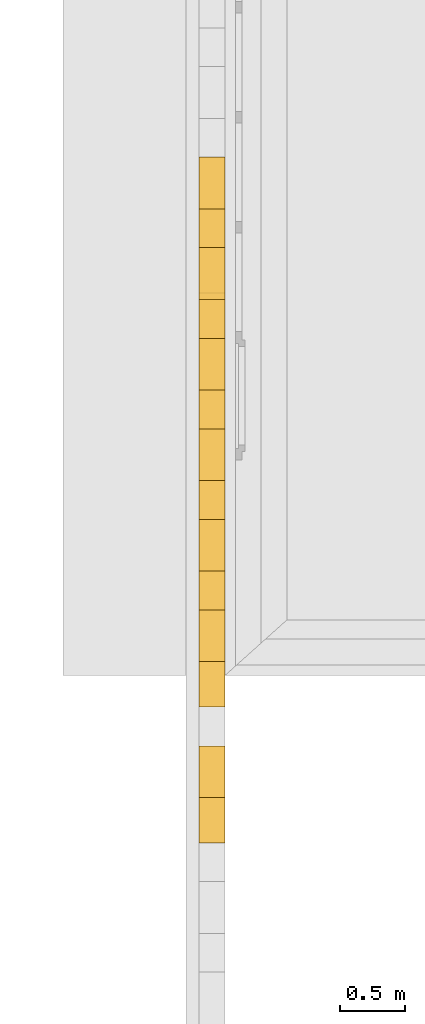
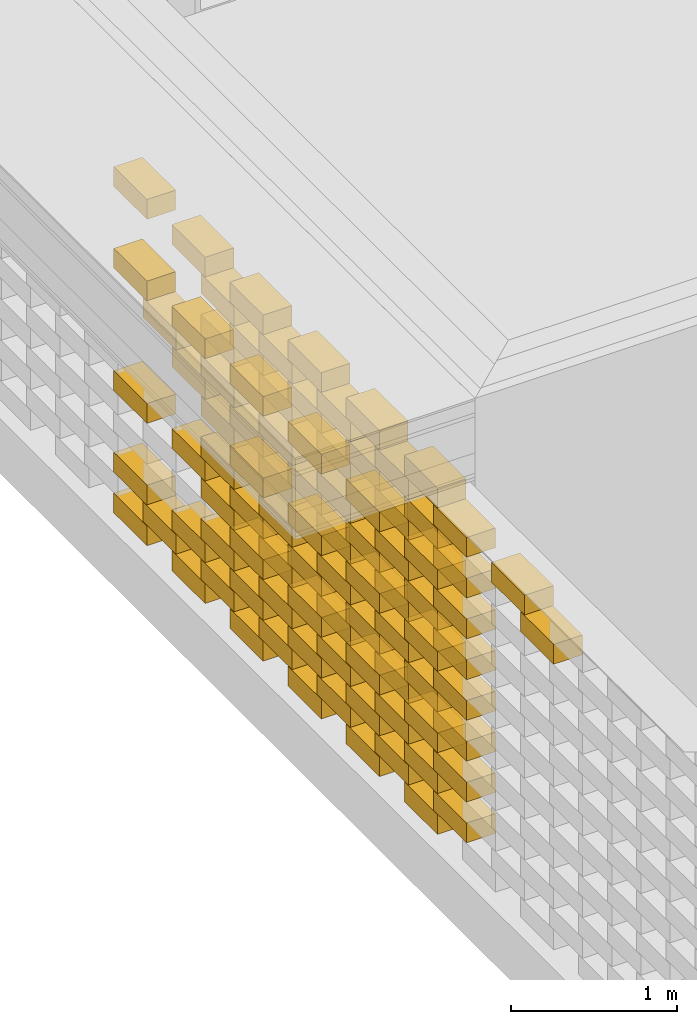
# One storey, part 47 of 62: 105 railings.
"""IFC2X3 building model written with IfcOpenShell, lengths in millimetres."""

from ifc_helpers import new_model, entity, si_unit, converted_unit, derived_unit, money_unit, direction, frame, origin_with_axes, place, context, subcontext, project, spatial, polyline, outline, extrude, material, type_object, element, save


model = new_model("IFC2X3")

# Units and contexts
model_context = context("Model", 3, precision=0.01, world=origin_with_axes(), true_north=direction((0.0, 1.0)))
body_context = subcontext(model_context, "Body", "Model", "MODEL_VIEW")
ifc_project = project(units=[si_unit("LENGTHUNIT", "METRE", prefix="MILLI"), si_unit("AREAUNIT", "SQUARE_METRE"), si_unit("VOLUMEUNIT", "CUBIC_METRE"), converted_unit("PLANEANGLEUNIT", "DEGREE", entity("IfcPlaneAngleMeasure", 0.0174532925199), si_unit("PLANEANGLEUNIT", "RADIAN"), dimensions=[0, 0, 0, 0, 0, 0, 0]), si_unit("SOLIDANGLEUNIT", "STERADIAN"), money_unit("EUR"), converted_unit("TIMEUNIT", "Year", entity("IfcTimeMeasure", 31556926.0), si_unit("TIMEUNIT", "SECOND"), dimensions=[0, 0, 1, 0, 0, 0, 0]), si_unit("MASSUNIT", "GRAM", prefix="KILO"), si_unit("THERMODYNAMICTEMPERATUREUNIT", "DEGREE_CELSIUS"), si_unit("LUMINOUSINTENSITYUNIT", "LUMEN"), si_unit("ENERGYUNIT", "JOULE", prefix="MEGA"), derived_unit("THERMALCONDUCTANCEUNIT", [(si_unit("POWERUNIT", "WATT"), 1), (si_unit("LENGTHUNIT", "METRE"), -1), (si_unit("THERMODYNAMICTEMPERATUREUNIT", "KELVIN"), -1)]), derived_unit("SPECIFICHEATCAPACITYUNIT", [(si_unit("ENERGYUNIT", "JOULE"), 1), (si_unit("MASSUNIT", "GRAM", prefix="KILO"), -1), (si_unit("THERMODYNAMICTEMPERATUREUNIT", "KELVIN"), -1)]), derived_unit("MASSDENSITYUNIT", [(si_unit("MASSUNIT", "GRAM", prefix="KILO"), 1), (si_unit("VOLUMEUNIT", "CUBIC_METRE"), -1)])], contexts=[model_context])

# Site, building, storey
site_placement = place(None, origin_with_axes())
site = spatial("IfcSite", under=ifc_project, at=site_placement, Name="KIRDE 14, ELVA", CompositionType="ELEMENT")
building_placement = place(site_placement, origin_with_axes())
building = spatial("IfcBuilding", under=site, at=building_placement, Name="PPA ja Päästeameti ühishoone", CompositionType="ELEMENT")
storey_placement = place(building_placement, origin_with_axes())
storey = spatial("IfcBuildingStorey", under=building, at=storey_placement, Name="Esimene korrus", CompositionType="ELEMENT", Elevation=0.0)

# Railings
ifc_material = material(Name="Air Space")
railing_type = type_object("IfcRailingType", Name="Air Space 200", PredefinedType="NOTDEFINED")
railing_1_placement = place(storey_placement, frame((620.000149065, 776.160160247, 2800.0), z_axis=(0.0, 0.0, 1.0), x_axis=(-2.91038304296e-10, -1.0, 0.0)))
element("IfcRailing", 1, at=railing_1_placement, inside=storey, type_object=railing_type, material=ifc_material, Name="plokk", PredefinedType="NOTDEFINED", context=body_context, shape_type="SweptSolid", body=[
    extrude(outline(polyline([(0.0, 0.0), (400.000000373, 0.0), (400.000000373, 200.0), (0.0, 200.0), (0.0, 0.0)])), origin_with_axes(), (0.0, 0.0, 1.0), 145.0),
])
railing_2_placement = place(storey_placement, frame((620.000149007, 2176.16016062, 1000.0), z_axis=(0.0, 0.0, 1.0), x_axis=(-4.36557457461e-10, -1.0, 0.0)))
element("IfcRailing", 2, at=railing_2_placement, inside=storey, type_object=railing_type, material=ifc_material, Name="plokk", PredefinedType="NOTDEFINED", context=body_context, shape_type="SweptSolid", body=[
    extrude(outline(polyline([(0.0, 0.0), (399.999999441, 0.0), (399.999999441, 200.0), (0.0, 200.0), (0.0, 0.0)])), origin_with_axes(), (0.0, 0.0, 1.0), 145.0),
])
for number, where, z_axis, x_axis in (
    (3, (620.000148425, 3576.16016099, 700.0), (0.0, 0.0, 1.0), (7.27595760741e-10, -1.0, 0.0)),
    (4, (620.000149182, 76.1601600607, 2800.0), (0.0, 0.0, 1.0), (-1.16415321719e-09, -1.0, 0.0)),
):
    element("IfcRailing", number, at=place(storey_placement, frame(where, z_axis=z_axis, x_axis=x_axis)), inside=storey, type_object=railing_type, material=ifc_material, Name="plokk", PredefinedType="NOTDEFINED", context=body_context, shape_type="SweptSolid", body=[
        extrude(outline(polyline([(0.0, 0.0), (400.000000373, 0.0), (400.000000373, 200.0), (0.0, 200.0), (0.0, 0.0)])), origin_with_axes(), (0.0, 0.0, 1.0), 145.0),
    ])
railing_3_placement = place(storey_placement, frame((620.000148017, 2876.16015987, 2800.0), z_axis=(0.0, 0.0, 1.0), x_axis=(5.82076609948e-10, -1.0, 0.0)))
element("IfcRailing", 5, at=railing_3_placement, inside=storey, type_object=railing_type, material=ifc_material, Name="plokk", PredefinedType="NOTDEFINED", context=body_context, shape_type="SweptSolid", body=[
    extrude(outline(polyline([(0.0, 0.0), (399.999999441, 0.0), (399.999999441, 200.0), (0.0, 200.0), (0.0, 0.0)])), origin_with_axes(), (0.0, 0.0, 1.0), 145.0),
])
railing_4_placement = place(storey_placement, frame((620.000148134, 1476.1601595, 2800.0), z_axis=(0.0, 0.0, 1.0), x_axis=(1.74622982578e-09, -1.0, 0.0)))
element("IfcRailing", 6, at=railing_4_placement, inside=storey, type_object=railing_type, material=ifc_material, Name="plokk", PredefinedType="NOTDEFINED", context=body_context, shape_type="SweptSolid", body=[
    extrude(outline(polyline([(0.0, 0.0), (400.000000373, 0.0), (400.000000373, 200.0), (0.0, 200.0), (0.0, 0.0)])), origin_with_axes(), (0.0, 0.0, 1.0), 145.0),
])
railing_5_placement = place(storey_placement, frame((620.000149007, 2176.16016062, 2800.0), z_axis=(0.0, 0.0, 1.0), x_axis=(-4.36557457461e-10, -1.0, 0.0)))
element("IfcRailing", 7, at=railing_5_placement, inside=storey, type_object=railing_type, material=ifc_material, Name="plokk", PredefinedType="NOTDEFINED", context=body_context, shape_type="SweptSolid", body=[
    extrude(outline(polyline([(0.0, 0.0), (399.999999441, 0.0), (399.999999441, 200.0), (0.0, 200.0), (0.0, 0.0)])), origin_with_axes(), (0.0, 0.0, 1.0), 145.0),
])
for number, where, z_axis, x_axis in (
    (8, (620.000148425, 3576.16016099, 2800.0), (0.0, 0.0, 1.0), (7.27595760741e-10, -1.0, 0.0)),
    (9, (620.000148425, 3576.16016099, 400.0), (0.0, 0.0, 1.0), (7.27595760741e-10, -1.0, 0.0)),
):
    element("IfcRailing", number, at=place(storey_placement, frame(where, z_axis=z_axis, x_axis=x_axis)), inside=storey, type_object=railing_type, material=ifc_material, Name="plokk", PredefinedType="NOTDEFINED", context=body_context, shape_type="SweptSolid", body=[
        extrude(outline(polyline([(0.0, 0.0), (400.000000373, 0.0), (400.000000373, 200.0), (0.0, 200.0), (0.0, 0.0)])), origin_with_axes(), (0.0, 0.0, 1.0), 145.0),
    ])
for number, where, z_axis, x_axis in (
    (10, (620.000148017, 2876.16015987, 400.0), (0.0, 0.0, 1.0), (5.82076609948e-10, -1.0, 0.0)),
    (11, (620.000149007, 2176.16016062, 400.0), (0.0, 0.0, 1.0), (-4.36557457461e-10, -1.0, 0.0)),
):
    element("IfcRailing", number, at=place(storey_placement, frame(where, z_axis=z_axis, x_axis=x_axis)), inside=storey, type_object=railing_type, material=ifc_material, Name="plokk", PredefinedType="NOTDEFINED", context=body_context, shape_type="SweptSolid", body=[
        extrude(outline(polyline([(0.0, 0.0), (399.999999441, 0.0), (399.999999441, 200.0), (0.0, 200.0), (0.0, 0.0)])), origin_with_axes(), (0.0, 0.0, 1.0), 145.0),
    ])
for number, where, z_axis, x_axis in (
    (12, (620.000148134, 1476.1601595, 400.0), (0.0, 0.0, 1.0), (1.74622982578e-09, -1.0, 0.0)),
    (13, (620.000149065, 776.160160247, 400.0), (0.0, 0.0, 1.0), (-2.91038304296e-10, -1.0, 0.0)),
    (14, (620.000149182, 76.1601600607, 400.0), (0.0, 0.0, 1.0), (-1.16415321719e-09, -1.0, 0.0)),
    (15, (620.00014825, 3226.16016043, 550.0), (0.0, 0.0, 1.0), (-5.82076608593e-10, -1.0, 0.0)),
    (16, (620.00014825, 2526.16016025, 550.0), (0.0, 0.0, 1.0), (8.73114912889e-10, -1.0, 0.0)),
):
    element("IfcRailing", number, at=place(storey_placement, frame(where, z_axis=z_axis, x_axis=x_axis)), inside=storey, type_object=railing_type, material=ifc_material, Name="plokk", PredefinedType="NOTDEFINED", context=body_context, shape_type="SweptSolid", body=[
        extrude(outline(polyline([(0.0, 0.0), (400.000000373, 0.0), (400.000000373, 200.0), (0.0, 200.0), (0.0, 0.0)])), origin_with_axes(), (0.0, 0.0, 1.0), 145.0),
    ])
railing_6_placement = place(storey_placement, frame((620.000148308, 1826.16016099, 550.0), z_axis=(0.0, 0.0, 1.0), x_axis=(7.27595759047e-10, -1.0, 0.0)))
element("IfcRailing", 17, at=railing_6_placement, inside=storey, type_object=railing_type, material=ifc_material, Name="plokk", PredefinedType="NOTDEFINED", context=body_context, shape_type="SweptSolid", body=[
    extrude(outline(polyline([(0.0, 0.0), (400.000001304, 0.0), (400.000001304, 200.0), (0.0, 200.0), (0.0, 0.0)])), origin_with_axes(), (0.0, 0.0, 1.0), 145.0),
])
for number, where, z_axis, x_axis in (
    (18, (620.000148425, 1126.16015894, 550.0), (0.0, 0.0, 1.0), (7.27595762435e-10, -1.0, 0.0)),
    (19, (620.000148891, 426.160159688, 550.0), (0.0, 0.0, 1.0), (1.89174898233e-09, -1.0, 0.0)),
):
    element("IfcRailing", number, at=place(storey_placement, frame(where, z_axis=z_axis, x_axis=x_axis)), inside=storey, type_object=railing_type, material=ifc_material, Name="plokk", PredefinedType="NOTDEFINED", context=body_context, shape_type="SweptSolid", body=[
        extrude(outline(polyline([(0.0, 0.0), (399.999999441, 0.0), (399.999999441, 200.0), (0.0, 200.0), (0.0, 0.0)])), origin_with_axes(), (0.0, 0.0, 1.0), 145.0),
    ])
for number, where, z_axis, x_axis in (
    (20, (620.000148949, -273.839840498, 550.0), (0.0, 0.0, 1.0), (2.91038304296e-10, -1.0, 0.0)),
    (21, (620.000148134, 1476.1601595, 700.0), (0.0, 0.0, 1.0), (1.74622982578e-09, -1.0, 0.0)),
    (22, (620.000149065, 776.160160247, 700.0), (0.0, 0.0, 1.0), (-2.91038304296e-10, -1.0, 0.0)),
    (23, (620.000149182, 76.1601600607, 700.0), (0.0, 0.0, 1.0), (-1.16415321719e-09, -1.0, 0.0)),
):
    element("IfcRailing", number, at=place(storey_placement, frame(where, z_axis=z_axis, x_axis=x_axis)), inside=storey, type_object=railing_type, material=ifc_material, Name="plokk", PredefinedType="NOTDEFINED", context=body_context, shape_type="SweptSolid", body=[
        extrude(outline(polyline([(0.0, 0.0), (400.000000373, 0.0), (400.000000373, 200.0), (0.0, 200.0), (0.0, 0.0)])), origin_with_axes(), (0.0, 0.0, 1.0), 145.0),
    ])
for number, where, z_axis, x_axis in (
    (24, (620.000148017, 2876.16015987, 1300.0), (0.0, 0.0, 1.0), (5.82076609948e-10, -1.0, 0.0)),
    (25, (620.000148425, 1126.16015894, 850.0), (0.0, 0.0, 1.0), (7.27595762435e-10, -1.0, 0.0)),
    (26, (620.000148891, 426.160159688, 850.0), (0.0, 0.0, 1.0), (1.89174898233e-09, -1.0, 0.0)),
):
    element("IfcRailing", number, at=place(storey_placement, frame(where, z_axis=z_axis, x_axis=x_axis)), inside=storey, type_object=railing_type, material=ifc_material, Name="plokk", PredefinedType="NOTDEFINED", context=body_context, shape_type="SweptSolid", body=[
        extrude(outline(polyline([(0.0, 0.0), (399.999999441, 0.0), (399.999999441, 200.0), (0.0, 200.0), (0.0, 0.0)])), origin_with_axes(), (0.0, 0.0, 1.0), 145.0),
    ])
for number, where, z_axis, x_axis in (
    (27, (620.000148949, -273.839840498, 850.0), (0.0, 0.0, 1.0), (2.91038304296e-10, -1.0, 0.0)),
    (28, (620.00014825, 3226.16016043, 2050.0), (0.0, 0.0, 1.0), (-5.82076608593e-10, -1.0, 0.0)),
    (29, (620.000148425, 3576.16016099, 2200.0), (0.0, 0.0, 1.0), (7.27595760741e-10, -1.0, 0.0)),
    (30, (620.000148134, 1476.1601595, 1000.0), (0.0, 0.0, 1.0), (1.74622982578e-09, -1.0, 0.0)),
    (31, (620.000149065, 776.160160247, 1000.0), (0.0, 0.0, 1.0), (-2.91038304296e-10, -1.0, 0.0)),
    (32, (620.000149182, 76.1601600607, 1000.0), (0.0, 0.0, 1.0), (-1.16415321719e-09, -1.0, 0.0)),
):
    element("IfcRailing", number, at=place(storey_placement, frame(where, z_axis=z_axis, x_axis=x_axis)), inside=storey, type_object=railing_type, material=ifc_material, Name="plokk", PredefinedType="NOTDEFINED", context=body_context, shape_type="SweptSolid", body=[
        extrude(outline(polyline([(0.0, 0.0), (400.000000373, 0.0), (400.000000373, 200.0), (0.0, 200.0), (0.0, 0.0)])), origin_with_axes(), (0.0, 0.0, 1.0), 145.0),
    ])
for number, where, z_axis, x_axis in (
    (33, (620.000148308, 1826.16016099, 2050.0), (0.0, 0.0, 1.0), (7.27595759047e-10, -1.0, 0.0)),
    (34, (620.000148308, 1826.16016099, 850.0), (0.0, 0.0, 1.0), (7.27595759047e-10, -1.0, 0.0)),
):
    element("IfcRailing", number, at=place(storey_placement, frame(where, z_axis=z_axis, x_axis=x_axis)), inside=storey, type_object=railing_type, material=ifc_material, Name="plokk", PredefinedType="NOTDEFINED", context=body_context, shape_type="SweptSolid", body=[
        extrude(outline(polyline([(0.0, 0.0), (400.000001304, 0.0), (400.000001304, 200.0), (0.0, 200.0), (0.0, 0.0)])), origin_with_axes(), (0.0, 0.0, 1.0), 145.0),
    ])
railing_7_placement = place(storey_placement, frame((620.000148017, 2876.16015987, 2200.0), z_axis=(0.0, 0.0, 1.0), x_axis=(5.82076609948e-10, -1.0, 0.0)))
element("IfcRailing", 35, at=railing_7_placement, inside=storey, type_object=railing_type, material=ifc_material, Name="plokk", PredefinedType="NOTDEFINED", context=body_context, shape_type="SweptSolid", body=[
    extrude(outline(polyline([(0.0, 0.0), (399.999999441, 0.0), (399.999999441, 200.0), (0.0, 200.0), (0.0, 0.0)])), origin_with_axes(), (0.0, 0.0, 1.0), 145.0),
])
for number, where, z_axis, x_axis in (
    (36, (620.000148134, 1476.1601595, 1000.0), (0.0, 0.0, 1.0), (1.74622982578e-09, -1.0, 0.0)),
    (37, (620.000149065, 776.160160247, 1000.0), (0.0, 0.0, 1.0), (-2.91038304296e-10, -1.0, 0.0)),
    (38, (620.000149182, 76.1601600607, 1000.0), (0.0, 0.0, 1.0), (-1.16415321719e-09, -1.0, 0.0)),
):
    element("IfcRailing", number, at=place(storey_placement, frame(where, z_axis=z_axis, x_axis=x_axis)), inside=storey, type_object=railing_type, material=ifc_material, Name="plokk", PredefinedType="NOTDEFINED", context=body_context, shape_type="SweptSolid", body=[
        extrude(outline(polyline([(0.0, 0.0), (400.000000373, 0.0), (400.000000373, 200.0), (0.0, 200.0), (0.0, 0.0)])), origin_with_axes(), (0.0, 0.0, 1.0), 145.0),
    ])
for number, where, z_axis, x_axis in (
    (39, (620.000148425, 1126.16015894, 1150.0), (0.0, 0.0, 1.0), (7.27595762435e-10, -1.0, 0.0)),
    (40, (620.000148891, 426.160159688, 1150.0), (0.0, 0.0, 1.0), (1.89174898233e-09, -1.0, 0.0)),
):
    element("IfcRailing", number, at=place(storey_placement, frame(where, z_axis=z_axis, x_axis=x_axis)), inside=storey, type_object=railing_type, material=ifc_material, Name="plokk", PredefinedType="NOTDEFINED", context=body_context, shape_type="SweptSolid", body=[
        extrude(outline(polyline([(0.0, 0.0), (399.999999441, 0.0), (399.999999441, 200.0), (0.0, 200.0), (0.0, 0.0)])), origin_with_axes(), (0.0, 0.0, 1.0), 145.0),
    ])
railing_8_placement = place(storey_placement, frame((620.000148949, -273.839840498, 1150.0), z_axis=(0.0, 0.0, 1.0), x_axis=(2.91038304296e-10, -1.0, 0.0)))
element("IfcRailing", 41, at=railing_8_placement, inside=storey, type_object=railing_type, material=ifc_material, Name="plokk", PredefinedType="NOTDEFINED", context=body_context, shape_type="SweptSolid", body=[
    extrude(outline(polyline([(0.0, 0.0), (400.000000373, 0.0), (400.000000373, 200.0), (0.0, 200.0), (0.0, 0.0)])), origin_with_axes(), (0.0, 0.0, 1.0), 145.0),
])
railing_9_placement = place(storey_placement, frame((620.000148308, 1826.16016099, 1450.0), z_axis=(0.0, 0.0, 1.0), x_axis=(7.27595759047e-10, -1.0, 0.0)))
element("IfcRailing", 42, at=railing_9_placement, inside=storey, type_object=railing_type, material=ifc_material, Name="plokk", PredefinedType="NOTDEFINED", context=body_context, shape_type="SweptSolid", body=[
    extrude(outline(polyline([(0.0, 0.0), (400.000001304, 0.0), (400.000001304, 200.0), (0.0, 200.0), (0.0, 0.0)])), origin_with_axes(), (0.0, 0.0, 1.0), 145.0),
])
for number, where, z_axis, x_axis in (
    (43, (620.000148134, 1476.1601595, 1300.0), (0.0, 0.0, 1.0), (1.74622982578e-09, -1.0, 0.0)),
    (44, (620.000149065, 776.160160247, 1300.0), (0.0, 0.0, 1.0), (-2.91038304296e-10, -1.0, 0.0)),
    (45, (620.000149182, 76.1601600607, 1300.0), (0.0, 0.0, 1.0), (-1.16415321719e-09, -1.0, 0.0)),
):
    element("IfcRailing", number, at=place(storey_placement, frame(where, z_axis=z_axis, x_axis=x_axis)), inside=storey, type_object=railing_type, material=ifc_material, Name="plokk", PredefinedType="NOTDEFINED", context=body_context, shape_type="SweptSolid", body=[
        extrude(outline(polyline([(0.0, 0.0), (400.000000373, 0.0), (400.000000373, 200.0), (0.0, 200.0), (0.0, 0.0)])), origin_with_axes(), (0.0, 0.0, 1.0), 145.0),
    ])
for number, where, z_axis, x_axis in (
    (46, (620.000149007, 2176.16016062, 1600.0), (0.0, 0.0, 1.0), (-4.36557457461e-10, -1.0, 0.0)),
    (47, (620.000148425, 1126.16015894, 1450.0), (0.0, 0.0, 1.0), (7.27595762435e-10, -1.0, 0.0)),
    (48, (620.000148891, 426.160159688, 1450.0), (0.0, 0.0, 1.0), (1.89174898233e-09, -1.0, 0.0)),
):
    element("IfcRailing", number, at=place(storey_placement, frame(where, z_axis=z_axis, x_axis=x_axis)), inside=storey, type_object=railing_type, material=ifc_material, Name="plokk", PredefinedType="NOTDEFINED", context=body_context, shape_type="SweptSolid", body=[
        extrude(outline(polyline([(0.0, 0.0), (399.999999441, 0.0), (399.999999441, 200.0), (0.0, 200.0), (0.0, 0.0)])), origin_with_axes(), (0.0, 0.0, 1.0), 145.0),
    ])
for number, where, z_axis, x_axis in (
    (49, (620.000148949, -273.839840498, 1450.0), (0.0, 0.0, 1.0), (2.91038304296e-10, -1.0, 0.0)),
    (50, (620.000148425, 3576.16016099, 1300.0), (0.0, 0.0, 1.0), (7.27595760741e-10, -1.0, 0.0)),
    (51, (620.000148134, 1476.1601595, 1600.0), (0.0, 0.0, 1.0), (1.74622982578e-09, -1.0, 0.0)),
    (52, (620.000149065, 776.160160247, 1600.0), (0.0, 0.0, 1.0), (-2.91038304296e-10, -1.0, 0.0)),
    (53, (620.000149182, 76.1601600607, 1600.0), (0.0, 0.0, 1.0), (-1.16415321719e-09, -1.0, 0.0)),
):
    element("IfcRailing", number, at=place(storey_placement, frame(where, z_axis=z_axis, x_axis=x_axis)), inside=storey, type_object=railing_type, material=ifc_material, Name="plokk", PredefinedType="NOTDEFINED", context=body_context, shape_type="SweptSolid", body=[
        extrude(outline(polyline([(0.0, 0.0), (400.000000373, 0.0), (400.000000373, 200.0), (0.0, 200.0), (0.0, 0.0)])), origin_with_axes(), (0.0, 0.0, 1.0), 145.0),
    ])
railing_10_placement = place(storey_placement, frame((620.000149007, 2176.16016062, 1900.0), z_axis=(0.0, 0.0, 1.0), x_axis=(-4.36557457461e-10, -1.0, 0.0)))
element("IfcRailing", 54, at=railing_10_placement, inside=storey, type_object=railing_type, material=ifc_material, Name="plokk", PredefinedType="NOTDEFINED", context=body_context, shape_type="SweptSolid", body=[
    extrude(outline(polyline([(0.0, 0.0), (399.999999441, 0.0), (399.999999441, 200.0), (0.0, 200.0), (0.0, 0.0)])), origin_with_axes(), (0.0, 0.0, 1.0), 145.0),
])
for number, where, z_axis, x_axis in (
    (55, (620.00014825, 2526.16016025, 1750.0), (0.0, 0.0, 1.0), (8.73114912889e-10, -1.0, 0.0)),
    (56, (620.00014825, 2526.16016025, 1450.0), (0.0, 0.0, 1.0), (8.73114912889e-10, -1.0, 0.0)),
):
    element("IfcRailing", number, at=place(storey_placement, frame(where, z_axis=z_axis, x_axis=x_axis)), inside=storey, type_object=railing_type, material=ifc_material, Name="plokk", PredefinedType="NOTDEFINED", context=body_context, shape_type="SweptSolid", body=[
        extrude(outline(polyline([(0.0, 0.0), (400.000000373, 0.0), (400.000000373, 200.0), (0.0, 200.0), (0.0, 0.0)])), origin_with_axes(), (0.0, 0.0, 1.0), 145.0),
    ])
railing_11_placement = place(storey_placement, frame((620.000149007, 2176.16016062, 2200.0), z_axis=(0.0, 0.0, 1.0), x_axis=(-4.36557457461e-10, -1.0, 0.0)))
element("IfcRailing", 57, at=railing_11_placement, inside=storey, type_object=railing_type, material=ifc_material, Name="plokk", PredefinedType="NOTDEFINED", context=body_context, shape_type="SweptSolid", body=[
    extrude(outline(polyline([(0.0, 0.0), (399.999999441, 0.0), (399.999999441, 200.0), (0.0, 200.0), (0.0, 0.0)])), origin_with_axes(), (0.0, 0.0, 1.0), 145.0),
])
for number, where, z_axis, x_axis in (
    (58, (620.000148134, 1476.1601595, 1600.0), (0.0, 0.0, 1.0), (1.74622982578e-09, -1.0, 0.0)),
    (59, (620.000149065, 776.160160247, 1600.0), (0.0, 0.0, 1.0), (-2.91038304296e-10, -1.0, 0.0)),
    (60, (620.000149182, 76.1601600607, 1600.0), (0.0, 0.0, 1.0), (-1.16415321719e-09, -1.0, 0.0)),
):
    element("IfcRailing", number, at=place(storey_placement, frame(where, z_axis=z_axis, x_axis=x_axis)), inside=storey, type_object=railing_type, material=ifc_material, Name="plokk", PredefinedType="NOTDEFINED", context=body_context, shape_type="SweptSolid", body=[
        extrude(outline(polyline([(0.0, 0.0), (400.000000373, 0.0), (400.000000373, 200.0), (0.0, 200.0), (0.0, 0.0)])), origin_with_axes(), (0.0, 0.0, 1.0), 145.0),
    ])
railing_12_placement = place(storey_placement, frame((620.000148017, 2876.16015987, 2200.0), z_axis=(0.0, 0.0, 1.0), x_axis=(5.82076609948e-10, -1.0, 0.0)))
element("IfcRailing", 61, at=railing_12_placement, inside=storey, type_object=railing_type, material=ifc_material, Name="plokk", PredefinedType="NOTDEFINED", context=body_context, shape_type="SweptSolid", body=[
    extrude(outline(polyline([(0.0, 0.0), (399.999999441, 0.0), (399.999999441, 200.0), (0.0, 200.0), (0.0, 0.0)])), origin_with_axes(), (0.0, 0.0, 1.0), 145.0),
])
for number, where, z_axis, x_axis in (
    (62, (620.000148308, 1826.16016099, 1150.0), (0.0, 0.0, 1.0), (7.27595759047e-10, -1.0, 0.0)),
    (63, (620.000148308, 1826.16016099, 1750.0), (0.0, 0.0, 1.0), (7.27595759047e-10, -1.0, 0.0)),
):
    element("IfcRailing", number, at=place(storey_placement, frame(where, z_axis=z_axis, x_axis=x_axis)), inside=storey, type_object=railing_type, material=ifc_material, Name="plokk", PredefinedType="NOTDEFINED", context=body_context, shape_type="SweptSolid", body=[
        extrude(outline(polyline([(0.0, 0.0), (400.000001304, 0.0), (400.000001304, 200.0), (0.0, 200.0), (0.0, 0.0)])), origin_with_axes(), (0.0, 0.0, 1.0), 145.0),
    ])
for number, where, z_axis, x_axis in (
    (64, (620.000149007, 2176.16016062, 1600.0), (0.0, 0.0, 1.0), (-4.36557457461e-10, -1.0, 0.0)),
    (65, (620.000148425, 1126.16015894, 1750.0), (0.0, 0.0, 1.0), (7.27595762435e-10, -1.0, 0.0)),
    (66, (620.000148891, 426.160159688, 1750.0), (0.0, 0.0, 1.0), (1.89174898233e-09, -1.0, 0.0)),
):
    element("IfcRailing", number, at=place(storey_placement, frame(where, z_axis=z_axis, x_axis=x_axis)), inside=storey, type_object=railing_type, material=ifc_material, Name="plokk", PredefinedType="NOTDEFINED", context=body_context, shape_type="SweptSolid", body=[
        extrude(outline(polyline([(0.0, 0.0), (399.999999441, 0.0), (399.999999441, 200.0), (0.0, 200.0), (0.0, 0.0)])), origin_with_axes(), (0.0, 0.0, 1.0), 145.0),
    ])
railing_13_placement = place(storey_placement, frame((620.000148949, -273.839840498, 1750.0), z_axis=(0.0, 0.0, 1.0), x_axis=(2.91038304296e-10, -1.0, 0.0)))
element("IfcRailing", 67, at=railing_13_placement, inside=storey, type_object=railing_type, material=ifc_material, Name="plokk", PredefinedType="NOTDEFINED", context=body_context, shape_type="SweptSolid", body=[
    extrude(outline(polyline([(0.0, 0.0), (400.000000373, 0.0), (400.000000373, 200.0), (0.0, 200.0), (0.0, 0.0)])), origin_with_axes(), (0.0, 0.0, 1.0), 145.0),
])
for number, where, z_axis, x_axis in (
    (68, (620.000148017, 2876.16015987, 700.0), (0.0, 0.0, 1.0), (5.82076609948e-10, -1.0, 0.0)),
    (69, (620.000148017, 2876.16015987, 1900.0), (0.0, 0.0, 1.0), (5.82076609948e-10, -1.0, 0.0)),
):
    element("IfcRailing", number, at=place(storey_placement, frame(where, z_axis=z_axis, x_axis=x_axis)), inside=storey, type_object=railing_type, material=ifc_material, Name="plokk", PredefinedType="NOTDEFINED", context=body_context, shape_type="SweptSolid", body=[
        extrude(outline(polyline([(0.0, 0.0), (399.999999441, 0.0), (399.999999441, 200.0), (0.0, 200.0), (0.0, 0.0)])), origin_with_axes(), (0.0, 0.0, 1.0), 145.0),
    ])
for number, where, z_axis, x_axis in (
    (70, (620.000148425, 3576.16016099, 2200.0), (0.0, 0.0, 1.0), (7.27595760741e-10, -1.0, 0.0)),
    (71, (620.00014825, 2526.16016025, 850.0), (0.0, 0.0, 1.0), (8.73114912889e-10, -1.0, 0.0)),
    (72, (620.000148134, 1476.1601595, 1900.0), (0.0, 0.0, 1.0), (1.74622982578e-09, -1.0, 0.0)),
    (73, (620.000149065, 776.160160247, 1900.0), (0.0, 0.0, 1.0), (-2.91038304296e-10, -1.0, 0.0)),
    (74, (620.000149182, 76.1601600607, 1900.0), (0.0, 0.0, 1.0), (-1.16415321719e-09, -1.0, 0.0)),
):
    element("IfcRailing", number, at=place(storey_placement, frame(where, z_axis=z_axis, x_axis=x_axis)), inside=storey, type_object=railing_type, material=ifc_material, Name="plokk", PredefinedType="NOTDEFINED", context=body_context, shape_type="SweptSolid", body=[
        extrude(outline(polyline([(0.0, 0.0), (400.000000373, 0.0), (400.000000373, 200.0), (0.0, 200.0), (0.0, 0.0)])), origin_with_axes(), (0.0, 0.0, 1.0), 145.0),
    ])
for number, where, z_axis, x_axis in (
    (75, (620.000148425, 1126.16015894, 2050.0), (0.0, 0.0, 1.0), (7.27595762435e-10, -1.0, 0.0)),
    (76, (620.000148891, 426.160159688, 2050.0), (0.0, 0.0, 1.0), (1.89174898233e-09, -1.0, 0.0)),
):
    element("IfcRailing", number, at=place(storey_placement, frame(where, z_axis=z_axis, x_axis=x_axis)), inside=storey, type_object=railing_type, material=ifc_material, Name="plokk", PredefinedType="NOTDEFINED", context=body_context, shape_type="SweptSolid", body=[
        extrude(outline(polyline([(0.0, 0.0), (399.999999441, 0.0), (399.999999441, 200.0), (0.0, 200.0), (0.0, 0.0)])), origin_with_axes(), (0.0, 0.0, 1.0), 145.0),
    ])
for number, where, z_axis, x_axis in (
    (77, (620.000148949, -273.839840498, 2050.0), (0.0, 0.0, 1.0), (2.91038304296e-10, -1.0, 0.0)),
    (78, (620.000148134, 1476.1601595, 2200.0), (0.0, 0.0, 1.0), (1.74622982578e-09, -1.0, 0.0)),
    (79, (620.000149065, 776.160160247, 2200.0), (0.0, 0.0, 1.0), (-2.91038304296e-10, -1.0, 0.0)),
    (80, (620.000149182, 76.1601600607, 2200.0), (0.0, 0.0, 1.0), (-1.16415321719e-09, -1.0, 0.0)),
    (81, (620.000148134, 1476.1601595, 2200.0), (0.0, 0.0, 1.0), (1.74622982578e-09, -1.0, 0.0)),
    (82, (620.000149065, 776.160160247, 2200.0), (0.0, 0.0, 1.0), (-2.91038304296e-10, -1.0, 0.0)),
    (83, (620.000149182, 76.1601600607, 2200.0), (0.0, 0.0, 1.0), (-1.16415321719e-09, -1.0, 0.0)),
    (84, (620.00014825, 2526.16016025, 2350.0), (0.0, 0.0, 1.0), (8.73114912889e-10, -1.0, 0.0)),
):
    element("IfcRailing", number, at=place(storey_placement, frame(where, z_axis=z_axis, x_axis=x_axis)), inside=storey, type_object=railing_type, material=ifc_material, Name="plokk", PredefinedType="NOTDEFINED", context=body_context, shape_type="SweptSolid", body=[
        extrude(outline(polyline([(0.0, 0.0), (400.000000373, 0.0), (400.000000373, 200.0), (0.0, 200.0), (0.0, 0.0)])), origin_with_axes(), (0.0, 0.0, 1.0), 145.0),
    ])
railing_14_placement = place(storey_placement, frame((620.000148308, 1826.16016099, 2350.0), z_axis=(0.0, 0.0, 1.0), x_axis=(7.27595759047e-10, -1.0, 0.0)))
element("IfcRailing", 85, at=railing_14_placement, inside=storey, type_object=railing_type, material=ifc_material, Name="plokk", PredefinedType="NOTDEFINED", context=body_context, shape_type="SweptSolid", body=[
    extrude(outline(polyline([(0.0, 0.0), (400.000001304, 0.0), (400.000001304, 200.0), (0.0, 200.0), (0.0, 0.0)])), origin_with_axes(), (0.0, 0.0, 1.0), 145.0),
])
for number, where, z_axis, x_axis in (
    (86, (620.000148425, 1126.16015894, 2350.0), (0.0, 0.0, 1.0), (7.27595762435e-10, -1.0, 0.0)),
    (87, (620.000148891, 426.160159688, 2350.0), (0.0, 0.0, 1.0), (1.89174898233e-09, -1.0, 0.0)),
):
    element("IfcRailing", number, at=place(storey_placement, frame(where, z_axis=z_axis, x_axis=x_axis)), inside=storey, type_object=railing_type, material=ifc_material, Name="plokk", PredefinedType="NOTDEFINED", context=body_context, shape_type="SweptSolid", body=[
        extrude(outline(polyline([(0.0, 0.0), (399.999999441, 0.0), (399.999999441, 200.0), (0.0, 200.0), (0.0, 0.0)])), origin_with_axes(), (0.0, 0.0, 1.0), 145.0),
    ])
railing_15_placement = place(storey_placement, frame((620.000148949, -273.839840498, 2350.0), z_axis=(0.0, 0.0, 1.0), x_axis=(2.91038304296e-10, -1.0, 0.0)))
element("IfcRailing", 88, at=railing_15_placement, inside=storey, type_object=railing_type, material=ifc_material, Name="plokk", PredefinedType="NOTDEFINED", context=body_context, shape_type="SweptSolid", body=[
    extrude(outline(polyline([(0.0, 0.0), (400.000000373, 0.0), (400.000000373, 200.0), (0.0, 200.0), (0.0, 0.0)])), origin_with_axes(), (0.0, 0.0, 1.0), 145.0),
])
railing_16_placement = place(storey_placement, frame((620.000149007, 2176.16016062, 2500.0), z_axis=(0.0, 0.0, 1.0), x_axis=(-4.36557457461e-10, -1.0, 0.0)))
element("IfcRailing", 89, at=railing_16_placement, inside=storey, type_object=railing_type, material=ifc_material, Name="plokk", PredefinedType="NOTDEFINED", context=body_context, shape_type="SweptSolid", body=[
    extrude(outline(polyline([(0.0, 0.0), (399.999999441, 0.0), (399.999999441, 200.0), (0.0, 200.0), (0.0, 0.0)])), origin_with_axes(), (0.0, 0.0, 1.0), 145.0),
])
for number, where, z_axis, x_axis in (
    (90, (620.000148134, 1476.1601595, 2500.0), (0.0, 0.0, 1.0), (1.74622982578e-09, -1.0, 0.0)),
    (91, (620.000149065, 776.160160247, 2500.0), (0.0, 0.0, 1.0), (-2.91038304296e-10, -1.0, 0.0)),
    (92, (620.000149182, 76.1601600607, 2500.0), (0.0, 0.0, 1.0), (-1.16415321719e-09, -1.0, 0.0)),
):
    element("IfcRailing", number, at=place(storey_placement, frame(where, z_axis=z_axis, x_axis=x_axis)), inside=storey, type_object=railing_type, material=ifc_material, Name="plokk", PredefinedType="NOTDEFINED", context=body_context, shape_type="SweptSolid", body=[
        extrude(outline(polyline([(0.0, 0.0), (400.000000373, 0.0), (400.000000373, 200.0), (0.0, 200.0), (0.0, 0.0)])), origin_with_axes(), (0.0, 0.0, 1.0), 145.0),
    ])
railing_17_placement = place(storey_placement, frame((620.000149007, -1323.83984124, 2500.0), z_axis=(0.0, 0.0, 1.0), x_axis=(1.45519152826e-10, -1.0, 0.0)))
element("IfcRailing", 93, at=railing_17_placement, inside=storey, type_object=railing_type, material=ifc_material, Name="plokk", PredefinedType="NOTDEFINED", context=body_context, shape_type="SweptSolid", body=[
    extrude(outline(polyline([(0.0, 0.0), (399.99999851, 0.0), (399.99999851, 200.0), (0.0, 200.0), (0.0, 0.0)])), origin_with_axes(), (0.0, 0.0, 1.0), 145.0),
])
railing_18_placement = place(storey_placement, frame((620.00014825, 2526.16016025, 2650.0), z_axis=(0.0, 0.0, 1.0), x_axis=(8.73114912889e-10, -1.0, 0.0)))
element("IfcRailing", 94, at=railing_18_placement, inside=storey, type_object=railing_type, material=ifc_material, Name="plokk", PredefinedType="NOTDEFINED", context=body_context, shape_type="SweptSolid", body=[
    extrude(outline(polyline([(0.0, 0.0), (400.000000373, 0.0), (400.000000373, 200.0), (0.0, 200.0), (0.0, 0.0)])), origin_with_axes(), (0.0, 0.0, 1.0), 145.0),
])
railing_19_placement = place(storey_placement, frame((620.000148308, 1826.16016099, 2650.0), z_axis=(0.0, 0.0, 1.0), x_axis=(7.27595759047e-10, -1.0, 0.0)))
element("IfcRailing", 95, at=railing_19_placement, inside=storey, type_object=railing_type, material=ifc_material, Name="plokk", PredefinedType="NOTDEFINED", context=body_context, shape_type="SweptSolid", body=[
    extrude(outline(polyline([(0.0, 0.0), (400.000001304, 0.0), (400.000001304, 200.0), (0.0, 200.0), (0.0, 0.0)])), origin_with_axes(), (0.0, 0.0, 1.0), 145.0),
])
for number, where, z_axis, x_axis in (
    (96, (620.000148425, 1126.16015894, 2650.0), (0.0, 0.0, 1.0), (7.27595762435e-10, -1.0, 0.0)),
    (97, (620.000148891, 426.160159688, 2650.0), (0.0, 0.0, 1.0), (1.89174898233e-09, -1.0, 0.0)),
):
    element("IfcRailing", number, at=place(storey_placement, frame(where, z_axis=z_axis, x_axis=x_axis)), inside=storey, type_object=railing_type, material=ifc_material, Name="plokk", PredefinedType="NOTDEFINED", context=body_context, shape_type="SweptSolid", body=[
        extrude(outline(polyline([(0.0, 0.0), (399.999999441, 0.0), (399.999999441, 200.0), (0.0, 200.0), (0.0, 0.0)])), origin_with_axes(), (0.0, 0.0, 1.0), 145.0),
    ])
for number, where, z_axis, x_axis in (
    (98, (620.000148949, -273.839840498, 2650.0), (0.0, 0.0, 1.0), (2.91038304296e-10, -1.0, 0.0)),
    (99, (620.000149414, -973.839839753, 2650.0), (0.0, 0.0, 1.0), (-8.73114912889e-10, -1.0, 0.0)),
):
    element("IfcRailing", number, at=place(storey_placement, frame(where, z_axis=z_axis, x_axis=x_axis)), inside=storey, type_object=railing_type, material=ifc_material, Name="plokk", PredefinedType="NOTDEFINED", context=body_context, shape_type="SweptSolid", body=[
        extrude(outline(polyline([(0.0, 0.0), (400.000000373, 0.0), (400.000000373, 200.0), (0.0, 200.0), (0.0, 0.0)])), origin_with_axes(), (0.0, 0.0, 1.0), 145.0),
    ])
for number, where, z_axis, x_axis in (
    (100, (620.000149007, 2176.16016062, 1000.0), (0.0, 0.0, 1.0), (-4.36557457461e-10, -1.0, 0.0)),
    (101, (620.000149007, 2176.16016062, 2200.0), (0.0, 0.0, 1.0), (-4.36557457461e-10, -1.0, 0.0)),
    (102, (620.000149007, 2176.16016062, 700.0), (0.0, 0.0, 1.0), (-4.36557457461e-10, -1.0, 0.0)),
):
    element("IfcRailing", number, at=place(storey_placement, frame(where, z_axis=z_axis, x_axis=x_axis)), inside=storey, type_object=railing_type, material=ifc_material, Name="plokk", PredefinedType="NOTDEFINED", context=body_context, shape_type="SweptSolid", body=[
        extrude(outline(polyline([(0.0, 0.0), (399.999999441, 0.0), (399.999999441, 200.0), (0.0, 200.0), (0.0, 0.0)])), origin_with_axes(), (0.0, 0.0, 1.0), 145.0),
    ])
railing_20_placement = place(storey_placement, frame((620.00014825, 2526.16016025, 1150.0), z_axis=(0.0, 0.0, 1.0), x_axis=(8.73114912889e-10, -1.0, 0.0)))
element("IfcRailing", 103, at=railing_20_placement, inside=storey, type_object=railing_type, material=ifc_material, Name="plokk", PredefinedType="NOTDEFINED", context=body_context, shape_type="SweptSolid", body=[
    extrude(outline(polyline([(0.0, 0.0), (400.000000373, 0.0), (400.000000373, 200.0), (0.0, 200.0), (0.0, 0.0)])), origin_with_axes(), (0.0, 0.0, 1.0), 145.0),
])
railing_21_placement = place(storey_placement, frame((620.000149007, 2176.16016062, 1300.0), z_axis=(0.0, 0.0, 1.0), x_axis=(-4.36557457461e-10, -1.0, 0.0)))
element("IfcRailing", 104, at=railing_21_placement, inside=storey, type_object=railing_type, material=ifc_material, Name="plokk", PredefinedType="NOTDEFINED", context=body_context, shape_type="SweptSolid", body=[
    extrude(outline(polyline([(0.0, 0.0), (399.999999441, 0.0), (399.999999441, 200.0), (0.0, 200.0), (0.0, 0.0)])), origin_with_axes(), (0.0, 0.0, 1.0), 145.0),
])
railing_22_placement = place(storey_placement, frame((620.00014825, 2526.16016025, 2050.0), z_axis=(0.0, 0.0, 1.0), x_axis=(8.73114912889e-10, -1.0, 0.0)))
element("IfcRailing", 105, at=railing_22_placement, inside=storey, type_object=railing_type, material=ifc_material, Name="plokk", PredefinedType="NOTDEFINED", context=body_context, shape_type="SweptSolid", body=[
    extrude(outline(polyline([(0.0, 0.0), (400.000000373, 0.0), (400.000000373, 200.0), (0.0, 200.0), (0.0, 0.0)])), origin_with_axes(), (0.0, 0.0, 1.0), 145.0),
])

save(model, "model.ifc")
